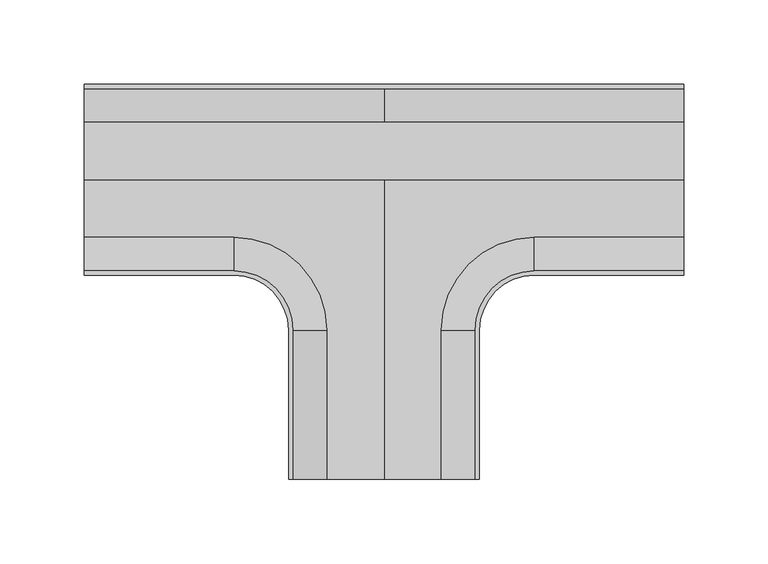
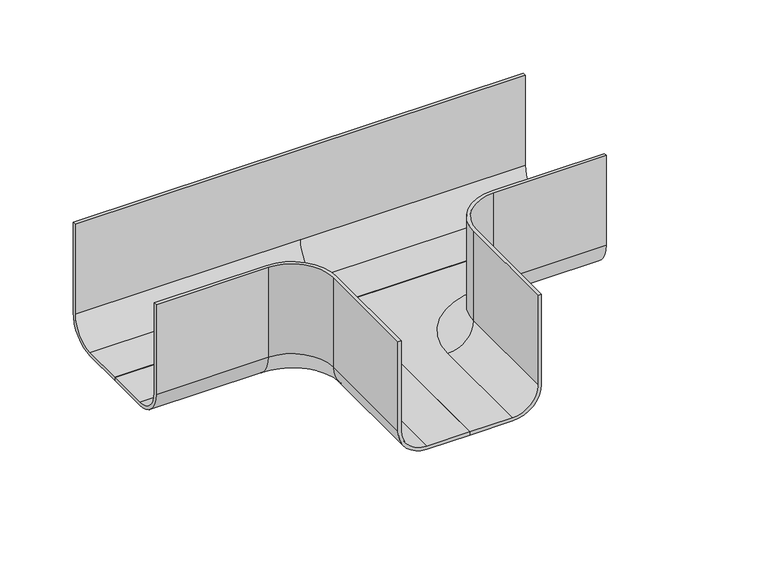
"""IFC4 building model written with IfcOpenShell, lengths in millimetres: cable carrier fitting geometry, ССT_Hyperline_FBTR-TEE Ответвитель Т-образный пластиковый : Ответвитель Т-образный пластиковый."""

import ifcopenshell
import ifcopenshell.guid

model = None  # the IFC model being written
_history = None  # IfcOwnerHistory: only IFC2X3 demands one
_inside = {}  # id of a spatial element -> (the spatial element, [elements in it])
_under = {}  # id of a project, library or spatial element -> (it, [spatial elements below it])
_declared = {}  # id of a project -> (the project, [libraries it declares])
_typed = {}  # id of a type object -> (the type object, [elements of that type])
_made_of = {}  # id of a material, layer set ... -> (it, [elements and type objects made of it])


def new_model(schema):
    """Start an empty IFC model of exactly this schema.

    Asked for "IFC4X3", IfcOpenShell would pick the latest addendum, in which some entities
    have other attributes; the version numbers below select the first issue.
    IFC2X3 requires an IfcOwnerHistory on every rooted entity: one is made here for all.
    """
    global model, _history
    if schema == "IFC4X3":
        model = ifcopenshell.file(schema_version=(4, 3, 0, 0))
    else:
        model = ifcopenshell.file(schema=schema)
    _inside.clear()
    _under.clear()
    _declared.clear()
    _typed.clear()
    _made_of.clear()
    _history = None
    if model.schema == "IFC2X3":
        org = make("IfcOrganization", Name="unknown")
        user = make(
            "IfcPersonAndOrganization",
            ThePerson=make("IfcPerson", FamilyName="unknown"),
            TheOrganization=org,
        )
        app = make(
            "IfcApplication",
            ApplicationDeveloper=org,
            Version="unknown",
            ApplicationFullName="unknown",
            ApplicationIdentifier="unknown",
        )
        _history = make(
            "IfcOwnerHistory",
            OwningUser=user,
            OwningApplication=app,
            ChangeAction="ADDED",
            CreationDate=0,
        )
    return model


def make(cls, **values):
    """One entity of the class cls with the attributes given. An attribute that is None is left unset."""
    return model.create_entity(
        cls, **{name: value for name, value in values.items() if value is not None}
    )


def rooted(cls, **values):
    """An entity with a GlobalId (a new one), such as an element, a storey or a relation."""
    return make(cls, GlobalId=ifcopenshell.guid.new(), OwnerHistory=_history, **values)


def si_unit(unit_type, name, prefix=None):
    """IfcSIUnit, for example si_unit("LENGTHUNIT", "METRE", prefix="MILLI")."""
    return make("IfcSIUnit", UnitType=unit_type, Prefix=prefix, Name=name)


def assignment(units):
    """IfcUnitAssignment: the units of a project."""
    return None if units is None else make("IfcUnitAssignment", Units=units)


def point(xyz):
    """IfcCartesianPoint."""
    return None if xyz is None else make("IfcCartesianPoint", Coordinates=xyz)


def direction(xyz):
    """IfcDirection."""
    return None if xyz is None else make("IfcDirection", DirectionRatios=xyz)


def frame(location, z_axis=None, x_axis=None):
    """IfcAxis2Placement3D, a coordinate frame: its origin and axes. An axis left out is left unset."""
    return make(
        "IfcAxis2Placement3D",
        Location=point(location),
        Axis=direction(z_axis),
        RefDirection=direction(x_axis),
    )


def origin():
    """The frame at (0, 0, 0) with its axes left unset."""
    return frame((0.0, 0.0, 0.0))


def place(relative_to, where):
    """IfcLocalPlacement: puts the frame where relative to a parent placement (None: the world)."""
    return make(
        "IfcLocalPlacement", PlacementRelTo=relative_to, RelativePlacement=where
    )


def context(
    kind, dimensions, precision=None, world=None, true_north=None, identifier=None
):
    """IfcGeometricRepresentationContext, for example the 3D "Model" context."""
    return make(
        "IfcGeometricRepresentationContext",
        ContextIdentifier=identifier,
        ContextType=kind,
        CoordinateSpaceDimension=dimensions,
        Precision=precision,
        WorldCoordinateSystem=world,
        TrueNorth=true_north,
    )


def project(units=None, contexts=None):
    """IfcProject with its units and contexts."""
    return rooted(
        "IfcProject",
        Name="project",
        RepresentationContexts=contexts,
        UnitsInContext=assignment(units),
    )


def spatial(cls, under=None, at=None, **own):
    """A site, building, storey or space (cls), placed at a placement, below another one or the project."""
    s = rooted(cls, ObjectPlacement=at, **own)
    if under is not None:
        _under.setdefault(under.id(), (under, []))[1].append(s)
    return s


def polyline(points):
    """IfcPolyline through the points."""
    return make("IfcPolyline", Points=[point(p) for p in points])


def circle_curve(where, radius):
    """IfcCircle in the frame where."""
    return make("IfcCircle", Position=where, Radius=radius)


def ellipse_curve(where, semi_axis1, semi_axis2):
    """IfcEllipse in the frame where."""
    return make(
        "IfcEllipse", Position=where, SemiAxis1=semi_axis1, SemiAxis2=semi_axis2
    )


def trimmed(basis, trim1, trim2, sense, master):
    """IfcTrimmedCurve: the piece of a basis curve between two trims."""
    return make(
        "IfcTrimmedCurve",
        BasisCurve=basis,
        Trim1=trim1,
        Trim2=trim2,
        SenseAgreement=sense,
        MasterRepresentation=master,
    )


def shape(context_of_items, identifier, shape_type, items):
    """IfcShapeRepresentation: the items that make up one representation, for example the "Body"."""
    return make(
        "IfcShapeRepresentation",
        ContextOfItems=context_of_items,
        RepresentationIdentifier=identifier,
        RepresentationType=shape_type,
        Items=items,
    )


def source(mapping_origin, context_of_items, identifier, shape_type, items):
    """IfcRepresentationMap: a shape defined once, which mapped items show again and again."""
    return make(
        "IfcRepresentationMap",
        MappingOrigin=mapping_origin,
        MappedRepresentation=shape(context_of_items, identifier, shape_type, items),
    )


def transform(
    local_origin,
    x_axis=None,
    y_axis=None,
    z_axis=None,
    scale=None,
    scale2=None,
    scale3=None,
    uniform=True,
):
    """IfcCartesianTransformationOperator3D, or its non-uniform kind. x_axis, y_axis, z_axis: its Axis1, 2, 3."""
    if uniform:
        return make(
            "IfcCartesianTransformationOperator3D",
            Axis1=direction(x_axis),
            Axis2=direction(y_axis),
            LocalOrigin=point(local_origin),
            Scale=scale,
            Axis3=direction(z_axis),
        )
    return make(
        "IfcCartesianTransformationOperator3DnonUniform",
        Axis1=direction(x_axis),
        Axis2=direction(y_axis),
        LocalOrigin=point(local_origin),
        Scale=scale,
        Axis3=direction(z_axis),
        Scale2=scale2,
        Scale3=scale3,
    )


def mapped(mapping_source, mapping_target):
    """IfcMappedItem: shows the shape of a source again, moved by a transform."""
    return make(
        "IfcMappedItem", MappingSource=mapping_source, MappingTarget=mapping_target
    )


def made_of(thing, what):
    """Note that an element or type object is made of a material, layer set ...; save() writes the relation."""
    if what is not None:
        _made_of.setdefault(what.id(), (what, []))[1].append(thing)
    return thing


def element(
    cls,
    number,
    at=None,
    inside=None,
    cuts=None,
    type_object=None,
    material=None,
    context=None,
    identifier="Body",
    shape_type=None,
    held_by="IfcProductDefinitionShape",
    body=None,
    shapes=None,
    **own,
):
    """One element of the class cls, such as IfcWall. Its Tag is "e" and its number.

    at: its placement. inside: the storey or other place that contains it. cuts: it is an
    opening in that element (IfcRelVoidsElement). A single representation is given by context,
    identifier, shape_type and body (its items); several are given by shapes. held_by: the class
    of the entity that holds the representations. save() writes the other relations.
    """
    e = rooted(cls, Tag="e%d" % number, ObjectPlacement=at, **own)
    if body is not None:
        shapes = [shape(context, identifier, shape_type, body)]
    if shapes is not None:
        e.Representation = make(held_by, Representations=shapes)
    if inside is not None:
        _inside.setdefault(inside.id(), (inside, []))[1].append(e)
    if cuts is not None:
        rooted(
            "IfcRelVoidsElement", RelatingBuildingElement=cuts, RelatedOpeningElement=e
        )
    if type_object is not None:
        _typed.setdefault(type_object.id(), (type_object, []))[1].append(e)
    return made_of(e, material)


def aggregate(whole, parts):
    """IfcRelAggregates: a whole, such as a stair, and the parts it consists of."""
    return rooted("IfcRelAggregates", RelatingObject=whole, RelatedObjects=parts)


def save(model, path):
    """Write the relations noted so far, then the file.

    IfcRelAggregates (storeys below a building ...), IfcRelContainedInSpatialStructure (elements
    in a storey), IfcRelDefinesByType, IfcRelAssociatesMaterial and IfcRelDeclares: one each for
    every whole, place, type object, material and project.
    """
    for whole, parts in _under.values():
        aggregate(whole, parts)
    for where, things in _inside.values():
        rooted(
            "IfcRelContainedInSpatialStructure",
            RelatedElements=things,
            RelatingStructure=where,
        )
    for kind, things in _typed.values():
        rooted("IfcRelDefinesByType", RelatedObjects=things, RelatingType=kind)
    for what, things in _made_of.values():
        rooted("IfcRelAssociatesMaterial", RelatedObjects=things, RelatingMaterial=what)
    for by, libraries in _declared.values():
        rooted("IfcRelDeclares", RelatingContext=by, RelatedDefinitions=libraries)
    model.write(path)


def plane_surface(at):
    """IfcPlane: the flat surface through the origin of the frame at, square to its z axis."""
    return make("IfcPlane", Position=at)


def cylinder_surface(at, radius):
    """IfcCylindricalSurface: all points at the distance radius from the z axis of the frame at."""
    return make("IfcCylindricalSurface", Position=at, Radius=radius)


def revolved_surface(curve, axis_point, axis_direction):
    """IfcSurfaceOfRevolution: the curve turned about the line through axis_point along axis_direction."""
    return make(
        "IfcSurfaceOfRevolution",
        SweptCurve=make("IfcArbitraryOpenProfileDef", ProfileType="CURVE", Curve=curve),
        AxisPosition=make("IfcAxis1Placement", Location=point(axis_point), Axis=direction(axis_direction)),
    )


def advanced_brep(points, edges, surfaces, faces):
    """IfcAdvancedBrep: a solid bounded by faces that lie on surfaces and meet in shared edges.

    An edge is (start, end): straight between two places in points (the first is 0);
    or (start, end, curve); or (start, end, curve, False) where it runs against its curve.
    A face is (place in surfaces, loops), or (place, loops, False) where it looks against
    its surface's normal. A loop lists edges by number (the first is 1), with a minus sign
    where the edge is run from its end to its start. The first loop is the outer one.
    """
    corners = [point(p) for p in points]
    vertices = [make("IfcVertexPoint", VertexGeometry=c) for c in corners]
    made = []
    for start, end, *more in edges:
        made.append(
            make(
                "IfcEdgeCurve",
                EdgeStart=vertices[start],
                EdgeEnd=vertices[end],
                EdgeGeometry=more[0] if more else make("IfcPolyline", Points=[corners[start], corners[end]]),
                SameSense=more[1] if len(more) > 1 else True,
            )
        )
    hull = []
    for where, loops, *sense in faces:
        bounds = []
        for j, loop in enumerate(loops):
            ring = [make("IfcOrientedEdge", EdgeElement=made[abs(k) - 1], Orientation=k > 0) for k in loop]
            bounds.append(
                make(
                    "IfcFaceOuterBound" if j == 0 else "IfcFaceBound",
                    Bound=make("IfcEdgeLoop", EdgeList=ring),
                    Orientation=True,
                )
            )
        hull.append(make("IfcAdvancedFace", Bounds=bounds, FaceSurface=surfaces[where], SameSense=sense[0] if sense else True))
    return make("IfcAdvancedBrep", Outer=make("IfcClosedShell", CfsFaces=hull))


def cable_carrier_fitting_8dd5b208(model_context):
    return source(origin(), model_context, "Body", "AdvancedBrep", [
        advanced_brep(
        [(-177.5, 56.54, -25.0), (-177.5, 34.0, -47.54), (-177.5, 0.0, -47.54), (-177.5, 0.0, -45.0), (-177.5, 34.0, -45.0), (-177.5, 54.0, -25.0), (-177.5, 54.0, 50.0), (-177.5, 56.54, 50.0), (0.0, 56.54, -25.0), (0.0, 34.0, -47.54), (177.5, 34.0, -47.54), (177.5, 0.0, -47.54), (177.5, 0.0, -45.0), (177.5, 34.0, -45.0), (0.0, 34.0, -45.0), (0.0, 54.0, -25.0), (177.5, 54.0, -25.0), (177.5, 54.0, 50.0), (177.5, 56.54, 50.0), (177.5, 56.54, -25.0)],
        [
            (0, 1, circle_curve(frame((-177.5, 34.0, -25.0), z_axis=(-1.0, 0.0, 0.0), x_axis=(0.0, 1.0, 0.0)), 22.54)),
            (1, 2),
            (2, 3),
            (3, 4),
            (4, 5, circle_curve(frame((-177.5, 34.0, -25.0), z_axis=(1.0, 0.0, 0.0), x_axis=(0.0, 1.0, 0.0)), 20.0)),
            (5, 6),
            (6, 7),
            (7, 0),
            (0, 8),
            (8, 9, circle_curve(frame((0.0, 34.0, -25.0), z_axis=(-1.0, 0.0, 0.0), x_axis=(0.0, 1.0, 0.0)), 22.54)),
            (9, 1),
            (9, 10),
            (10, 11),
            (11, 2),
            (11, 12),
            (12, 3),
            (12, 13),
            (13, 14),
            (14, 4),
            (14, 15, circle_curve(frame((0.0, 34.0, -25.0), z_axis=(1.0, 0.0, 0.0), x_axis=(0.0, 1.0, 0.0)), 20.0)),
            (15, 5),
            (15, 16),
            (16, 17),
            (17, 6),
            (7, 18),
            (18, 19),
            (19, 8),
            (18, 17),
            (16, 13, circle_curve(frame((177.5, 34.0, -25.0), z_axis=(-1.0, 0.0, 0.0), x_axis=(0.0, 1.0, 0.0)), 20.0)),
            (10, 19, circle_curve(frame((177.5, 34.0, -25.0), z_axis=(1.0, 0.0, 0.0), x_axis=(0.0, 1.0, 0.0)), 22.54)),
        ],
        [
            plane_surface(frame((-177.5, 54.0, 2.5), z_axis=(-1.0, 0.0, 0.0), x_axis=(0.0, 0.0, 1.0))),
            cylinder_surface(frame((-177.5, 34.0, -25.0), z_axis=(-1.0, 0.0, 0.0), x_axis=(0.0, 1.0, 0.0)), 22.54),
            plane_surface(frame((-177.5, 34.0, -47.54), z_axis=(0.0, 0.0, -1.0), x_axis=(1.0, 0.0, 0.0))),
            plane_surface(frame((-177.5, 0.0, -47.54), z_axis=(0.0, -1.0, 0.0), x_axis=(1.0, 0.0, 0.0))),
            plane_surface(frame((-177.5, 0.0, -45.0), z_axis=(0.0, 0.0, 1.0), x_axis=(1.0, 0.0, 0.0))),
            revolved_surface(polyline([(0.0, 54.0, -25.0), (-177.5, 54.0, -25.0)]), (-177.5, 34.0, -25.0), (1.0, 0.0, 0.0)),
            plane_surface(frame((-177.5, 54.0, -25.0), z_axis=(0.0, -1.0, 0.0), x_axis=(1.0, 0.0, 0.0))),
            plane_surface(frame((-177.5, 56.54, 50.0), z_axis=(0.0, 1.0, 0.0), x_axis=(1.0, 0.0, 0.0))),
            plane_surface(frame((177.5, 54.0, 2.5), z_axis=(1.0, 0.0, 0.0), x_axis=(0.0, 0.0, 1.0))),
            plane_surface(frame((-177.5, 54.0, 50.0), z_axis=(0.0, 0.0, 1.0), x_axis=(1.0, 0.0, 0.0))),
            cylinder_surface(frame((0.0, 34.0, -25.0), z_axis=(-1.0, 0.0, 0.0), x_axis=(0.0, 1.0, 0.0)), 22.54),
            revolved_surface(polyline([(177.5, 54.0, -25.0), (0.0, 54.0, -25.0)]), (0.0, 34.0, -25.0), (1.0, 0.0, 0.0)),
        ],
        [
            (0, [[1, 2, 3, 4, 5, 6, 7, 8]]),
            (1, [[-1, 9, 10, 11]]),
            (2, [[-2, -11, 12, 13, 14]]),
            (3, [[-3, -14, 15, 16]]),
            (4, [[-4, -16, 17, 18, 19]]),
            (5, [[-5, -19, 20, 21]]),
            (6, [[-6, -21, 22, 23, 24]]),
            (7, [[-8, 25, 26, 27, -9]]),
            (8, [[-26, 28, -23, 29, -17, -15, -13, 30]]),
            (9, [[-25, -7, -24, -28]]),
            (10, [[-10, -27, -30, -12]]),
            (11, [[-20, -18, -29, -22]]),
        ],
    ),
        advanced_brep(
        [(-177.5, -56.54, -25.0), (-177.5, -56.54, 50.0), (-177.5, -54.0, 50.0), (-177.5, -54.0, -25.0), (-177.5, -34.0, -45.0), (-177.5, 0.0, -45.0), (-177.5, 0.0, -47.54), (-177.5, -34.0, -47.54), (-89.0, -34.0, -47.54), (-89.0, -56.54, -25.0), (-89.0, -54.0, -25.0), (-89.0, -34.0, -45.0), (-89.0, -54.0, 50.0), (-89.0, -56.54, 50.0), (-56.54, -89.0, 50.0), (-56.54, -177.5, 50.0), (-54.0, -177.5, 50.0), (-54.0, -89.0, 50.0), (-34.0, -89.0, -47.54), (-56.54, -89.0, -25.0), (-54.0, -89.0, -25.0), (-34.0, -89.0, -45.0), (0.0, -177.5, -47.54), (0.0, -177.5, -45.0), (-34.0, -177.5, -45.0), (-54.0, -177.5, -25.0), (-56.54, -177.5, -25.0), (-34.0, -177.5, -47.54), (0.0, 0.0, -45.0), (0.0, 0.0, -47.54)],
        [
            (0, 1),
            (1, 2),
            (2, 3),
            (3, 4, circle_curve(frame((-177.5, -34.0, -25.0), z_axis=(1.0, 0.0, 0.0), x_axis=(0.0, -1.0, 0.0)), 20.0)),
            (4, 5),
            (5, 6),
            (6, 7),
            (7, 0, circle_curve(frame((-177.5, -34.0, -25.0), z_axis=(-1.0, 0.0, 0.0), x_axis=(0.0, -1.0, 0.0)), 22.54)),
            (7, 8),
            (8, 9, circle_curve(frame((-89.0, -34.0, -25.0), z_axis=(-1.0, 0.0, 0.0), x_axis=(0.0, -1.0, 0.0)), 22.54)),
            (9, 0),
            (3, 10),
            (10, 11, circle_curve(frame((-89.0, -34.0, -25.0), z_axis=(1.0, 0.0, 0.0), x_axis=(0.0, -1.0, 0.0)), 20.0)),
            (11, 4),
            (2, 12),
            (12, 10),
            (1, 13),
            (13, 14, circle_curve(frame((-89.0, -89.0, 50.0), z_axis=(0.0, 0.0, -1.0), x_axis=(0.0, 1.0, 0.0)), 32.46)),
            (14, 15),
            (15, 16),
            (16, 17),
            (17, 12, circle_curve(frame((-89.0, -89.0, 50.0), z_axis=(0.0, 0.0, 1.0), x_axis=(0.0, 1.0, 0.0)), 35.0)),
            (9, 13),
            (8, 18, circle_curve(frame((-89.0, -89.0, -47.54), z_axis=(0.0, 0.0, -1.0), x_axis=(0.0, 1.0, 0.0)), 55.0)),
            (18, 19, circle_curve(frame((-34.0, -89.0, -25.0), z_axis=(0.0, 1.0, 0.0), x_axis=(-1.0, 0.0, 0.0)), 22.54)),
            (19, 9, circle_curve(frame((-89.0, -89.0, -25.0), z_axis=(0.0, 0.0, 1.0), x_axis=(0.0, 1.0, 0.0)), 32.46)),
            (10, 20, circle_curve(frame((-89.0, -89.0, -25.0), z_axis=(0.0, 0.0, -1.0), x_axis=(0.0, 1.0, 0.0)), 35.0)),
            (20, 21, circle_curve(frame((-34.0, -89.0, -25.0), z_axis=(0.0, -1.0, 0.0), x_axis=(-1.0, 0.0, 0.0)), 20.0)),
            (21, 11, circle_curve(frame((-89.0, -89.0, -45.0), z_axis=(0.0, 0.0, 1.0), x_axis=(0.0, 1.0, 0.0)), 55.0)),
            (17, 20),
            (19, 14),
            (22, 23),
            (23, 24),
            (24, 25, circle_curve(frame((-34.0, -177.5, -25.0), z_axis=(0.0, 1.0, 0.0), x_axis=(-1.0, 0.0, 0.0)), 20.0)),
            (25, 16),
            (15, 26),
            (26, 27, circle_curve(frame((-34.0, -177.5, -25.0), z_axis=(0.0, -1.0, 0.0), x_axis=(-1.0, 0.0, 0.0)), 22.54)),
            (27, 22),
            (26, 19),
            (18, 27),
            (20, 25),
            (24, 21),
            (23, 28),
            (28, 5),
            (6, 29),
            (29, 22),
            (28, 29),
        ],
        [
            plane_surface(frame((-177.5, -54.0, 0.0), z_axis=(-1.0, 0.0, 0.0), x_axis=(0.0, 0.0, 1.0))),
            cylinder_surface(frame((-177.5, -34.0, -25.0), z_axis=(-1.0, 0.0, 0.0), x_axis=(0.0, -1.0, 0.0)), 22.54),
            revolved_surface(polyline([(-89.0, -54.0, -25.0), (-177.5, -54.0, -25.0)]), (-177.5, -34.0, -25.0), (1.0, 0.0, 0.0)),
            plane_surface(frame((-177.5, -54.0, -25.0), z_axis=(0.0, 1.0, 0.0), x_axis=(1.0, 0.0, 0.0))),
            plane_surface(frame((-177.5, -54.0, 50.0), z_axis=(0.0, 0.0, 1.0), x_axis=(1.0, 0.0, 0.0))),
            plane_surface(frame((-177.5, -56.54, 50.0), z_axis=(0.0, -1.0, 0.0), x_axis=(1.0, 0.0, 0.0))),
            revolved_surface(trimmed(ellipse_curve(frame((-89.0, -34.0, -25.0), z_axis=(1.0, 0.0, 0.0), x_axis=(0.0, -1.0, 0.0)), 22.54, 22.54), [point((-89.0, -56.54, -25.0))], [point((-89.0, -34.0, -47.54))], True, "CARTESIAN"), (-89.0, -89.0, 0.0), (0.0, 0.0, 1.0)),
            revolved_surface(trimmed(ellipse_curve(frame((-89.0, -34.0, -25.0), z_axis=(-1.0, 0.0, 0.0), x_axis=(0.0, -1.0, 0.0)), 20.0, 20.0), [point((-89.0, -34.0, -45.0))], [point((-89.0, -54.0, -25.0))], True, "CARTESIAN"), (-89.0, -89.0, 0.0), (0.0, 0.0, 1.0)),
            cylinder_surface(frame((-89.0, -89.0, 0.0), z_axis=(0.0, 0.0, 1.0), x_axis=(0.0, 1.0, 0.0)), 35.0),
            revolved_surface(polyline([(-89.0, -56.54, 50.0), (-89.0, -56.54, -25.0)]), (-89.0, -89.0, 0.0), (0.0, 0.0, 1.0)),
            plane_surface(frame((-54.0, -177.5, 0.0), z_axis=(0.0, -1.0, 0.0), x_axis=(0.0, 0.0, 1.0))),
            cylinder_surface(frame((-34.0, -89.0, -25.0), z_axis=(0.0, 1.0, 0.0), x_axis=(-1.0, 0.0, 0.0)), 22.54),
            revolved_surface(polyline([(-54.0, -177.5, -25.0), (-54.0, -89.0, -25.0)]), (-34.0, -89.0, -25.0), (0.0, -1.0, 0.0)),
            plane_surface(frame((-54.0, -89.0, -25.0), z_axis=(1.0, 0.0, 0.0), x_axis=(0.0, -1.0, 0.0))),
            plane_surface(frame((-56.54, -89.0, 50.0), z_axis=(-1.0, 0.0, 0.0), x_axis=(0.0, -1.0, 0.0))),
            plane_surface(frame((0.0, -89.0, -45.0), z_axis=(0.0, 0.0, 1.0), x_axis=(0.0, 1.0, 0.0))),
            plane_surface(frame((0.0, -89.0, -47.54), z_axis=(0.0, 0.0, -1.0), x_axis=(0.0, -1.0, 0.0))),
            plane_surface(frame((-89.0, 0.0, -45.0), z_axis=(0.0, 1.0, 0.0), x_axis=(0.0, 0.0, -1.0))),
            plane_surface(frame((0.0, 0.0, -45.0), z_axis=(1.0, 0.0, 0.0), x_axis=(0.0, 0.0, -1.0))),
        ],
        [
            (0, [[1, 2, 3, 4, 5, 6, 7, 8]]),
            (1, [[9, 10, 11, -8]]),
            (2, [[12, 13, 14, -4]]),
            (3, [[15, 16, -12, -3]]),
            (4, [[17, 18, 19, 20, 21, 22, -15, -2]]),
            (5, [[-11, 23, -17, -1]]),
            (6, [[24, 25, 26, -10]]),
            (7, [[-13, 27, 28, 29]]),
            (8, [[-22, 30, -27, -16]]),
            (9, [[-23, -26, 31, -18]]),
            (10, [[32, 33, 34, 35, -20, 36, 37, 38]]),
            (11, [[-37, 39, -25, 40]]),
            (12, [[-28, 41, -34, 42]]),
            (13, [[-35, -41, -30, -21]]),
            (14, [[-31, -39, -36, -19]]),
            (15, [[43, 44, -5, -14, -29, -42, -33]]),
            (16, [[45, 46, -38, -40, -24, -9, -7]]),
            (17, [[47, -45, -6, -44]]),
            (18, [[-32, -46, -47, -43]]),
        ],
    ),
        advanced_brep(
        [(177.5, -56.54, -25.0), (177.5, -34.0, -47.54), (177.5, 0.0, -47.54), (177.5, 0.0, -45.0), (177.5, -34.0, -45.0), (177.5, -54.0, -25.0), (177.5, -54.0, 50.0), (177.5, -56.54, 50.0), (89.0, -56.54, -25.0), (89.0, -34.0, -47.54), (89.0, -34.0, -45.0), (89.0, -54.0, -25.0), (89.0, -54.0, 50.0), (54.0, -89.0, 50.0), (54.0, -177.5, 50.0), (56.54, -177.5, 50.0), (56.54, -89.0, 50.0), (89.0, -56.54, 50.0), (56.54, -89.0, -25.0), (34.0, -89.0, -47.54), (34.0, -89.0, -45.0), (54.0, -89.0, -25.0), (0.0, -177.5, -47.54), (34.0, -177.5, -47.54), (56.54, -177.5, -25.0), (54.0, -177.5, -25.0), (34.0, -177.5, -45.0), (0.0, -177.5, -45.0), (0.0, 0.0, -45.0), (0.0, 0.0, -47.54)],
        [
            (0, 1, circle_curve(frame((177.5, -34.0, -25.0), z_axis=(1.0, 0.0, 0.0), x_axis=(0.0, -1.0, 0.0)), 22.54)),
            (1, 2),
            (2, 3),
            (3, 4),
            (4, 5, circle_curve(frame((177.5, -34.0, -25.0), z_axis=(-1.0, 0.0, 0.0), x_axis=(0.0, -1.0, 0.0)), 20.0)),
            (5, 6),
            (6, 7),
            (7, 0),
            (0, 8),
            (8, 9, circle_curve(frame((89.0, -34.0, -25.0), z_axis=(1.0, 0.0, 0.0), x_axis=(0.0, -1.0, 0.0)), 22.54)),
            (9, 1),
            (4, 10),
            (10, 11, circle_curve(frame((89.0, -34.0, -25.0), z_axis=(-1.0, 0.0, 0.0), x_axis=(0.0, -1.0, 0.0)), 20.0)),
            (11, 5),
            (11, 12),
            (12, 6),
            (12, 13, circle_curve(frame((89.0, -89.0, 50.0), z_axis=(0.0, 0.0, 1.0), x_axis=(0.0, 1.0, 0.0)), 35.0)),
            (13, 14),
            (14, 15),
            (15, 16),
            (16, 17, circle_curve(frame((89.0, -89.0, 50.0), z_axis=(0.0, 0.0, -1.0), x_axis=(0.0, 1.0, 0.0)), 32.46)),
            (17, 7),
            (17, 8),
            (8, 18, circle_curve(frame((89.0, -89.0, -25.0), z_axis=(0.0, 0.0, 1.0), x_axis=(0.0, 1.0, 0.0)), 32.46)),
            (18, 19, circle_curve(frame((34.0, -89.0, -25.0), z_axis=(0.0, 1.0, 0.0), x_axis=(1.0, 0.0, 0.0)), 22.54)),
            (19, 9, circle_curve(frame((89.0, -89.0, -47.54), z_axis=(0.0, 0.0, -1.0), x_axis=(0.0, 1.0, 0.0)), 55.0)),
            (10, 20, circle_curve(frame((89.0, -89.0, -45.0), z_axis=(0.0, 0.0, 1.0), x_axis=(0.0, 1.0, 0.0)), 55.0)),
            (20, 21, circle_curve(frame((34.0, -89.0, -25.0), z_axis=(0.0, -1.0, 0.0), x_axis=(1.0, 0.0, 0.0)), 20.0)),
            (21, 11, circle_curve(frame((89.0, -89.0, -25.0), z_axis=(0.0, 0.0, -1.0), x_axis=(0.0, 1.0, 0.0)), 35.0)),
            (21, 13),
            (16, 18),
            (22, 23),
            (23, 24, circle_curve(frame((34.0, -177.5, -25.0), z_axis=(0.0, -1.0, 0.0), x_axis=(1.0, 0.0, 0.0)), 22.54)),
            (24, 15),
            (14, 25),
            (25, 26, circle_curve(frame((34.0, -177.5, -25.0), z_axis=(0.0, 1.0, 0.0), x_axis=(1.0, 0.0, 0.0)), 20.0)),
            (26, 27),
            (27, 22),
            (23, 19),
            (18, 24),
            (20, 26),
            (25, 21),
            (3, 28),
            (28, 27),
            (22, 29),
            (29, 2),
            (29, 28),
        ],
        [
            plane_surface(frame((177.5, -54.0, 0.0), z_axis=(1.0, 0.0, 0.0), x_axis=(0.0, 0.0, 1.0))),
            cylinder_surface(frame((177.5, -34.0, -25.0), z_axis=(1.0, 0.0, 0.0), x_axis=(0.0, -1.0, 0.0)), 22.54),
            revolved_surface(polyline([(89.0, -54.0, -25.0), (177.5, -54.0, -25.0)]), (177.5, -34.0, -25.0), (-1.0, 0.0, 0.0)),
            plane_surface(frame((177.5, -54.0, -25.0), z_axis=(0.0, 1.0, 0.0), x_axis=(-1.0, 0.0, 0.0))),
            plane_surface(frame((177.5, -54.0, 50.0), z_axis=(0.0, 0.0, 1.0), x_axis=(-1.0, 0.0, 0.0))),
            plane_surface(frame((177.5, -56.54, 50.0), z_axis=(0.0, -1.0, 0.0), x_axis=(-1.0, 0.0, 0.0))),
            revolved_surface(trimmed(ellipse_curve(frame((89.0, -34.0, -25.0), z_axis=(1.0, 0.0, 0.0), x_axis=(0.0, -1.0, 0.0)), 22.54, 22.54), [point((89.0, -56.54, -25.0))], [point((89.0, -34.0, -47.54))], True, "CARTESIAN"), (89.0, -89.0, 0.0), (0.0, 0.0, 1.0)),
            revolved_surface(trimmed(ellipse_curve(frame((89.0, -34.0, -25.0), z_axis=(-1.0, 0.0, 0.0), x_axis=(0.0, -1.0, 0.0)), 20.0, 20.0), [point((89.0, -34.0, -45.0))], [point((89.0, -54.0, -25.0))], True, "CARTESIAN"), (89.0, -89.0, 0.0), (0.0, 0.0, 1.0)),
            cylinder_surface(frame((89.0, -89.0, 0.0), z_axis=(0.0, 0.0, 1.0), x_axis=(0.0, 1.0, 0.0)), 35.0),
            revolved_surface(polyline([(89.0, -56.54, 50.0), (89.0, -56.54, -25.0)]), (89.0, -89.0, 0.0), (0.0, 0.0, 1.0)),
            plane_surface(frame((54.0, -177.5, 0.0), z_axis=(0.0, -1.0, 0.0), x_axis=(0.0, 0.0, 1.0))),
            cylinder_surface(frame((34.0, -89.0, -25.0), z_axis=(0.0, 1.0, 0.0), x_axis=(1.0, 0.0, 0.0)), 22.54),
            revolved_surface(polyline([(54.0, -177.5, -25.0), (54.0, -89.0, -25.0)]), (34.0, -89.0, -25.0), (0.0, -1.0, 0.0)),
            plane_surface(frame((54.0, -89.0, -25.0), z_axis=(-1.0, 0.0, 0.0), x_axis=(0.0, -1.0, 0.0))),
            plane_surface(frame((56.54, -89.0, 50.0), z_axis=(1.0, 0.0, 0.0), x_axis=(0.0, -1.0, 0.0))),
            plane_surface(frame((0.0, -89.0, -45.0), z_axis=(0.0, 0.0, 1.0), x_axis=(0.0, 1.0, 0.0))),
            plane_surface(frame((0.0, -89.0, -47.54), z_axis=(0.0, 0.0, -1.0), x_axis=(0.0, -1.0, 0.0))),
            plane_surface(frame((89.0, 0.0, -45.0), z_axis=(0.0, 1.0, 0.0), x_axis=(0.0, 0.0, -1.0))),
            plane_surface(frame((0.0, 0.0, -45.0), z_axis=(-1.0, 0.0, 0.0), x_axis=(0.0, 0.0, -1.0))),
        ],
        [
            (0, [[1, 2, 3, 4, 5, 6, 7, 8]]),
            (1, [[-1, 9, 10, 11]]),
            (2, [[-5, 12, 13, 14]]),
            (3, [[-6, -14, 15, 16]]),
            (4, [[-7, -16, 17, 18, 19, 20, 21, 22]]),
            (5, [[-8, -22, 23, -9]]),
            (6, [[-10, 24, 25, 26]]),
            (7, [[27, 28, 29, -13]]),
            (8, [[-15, -29, 30, -17]]),
            (9, [[-21, 31, -24, -23]]),
            (10, [[32, 33, 34, -19, 35, 36, 37, 38]]),
            (11, [[39, -25, 40, -33]]),
            (12, [[41, -36, 42, -28]]),
            (13, [[-18, -30, -42, -35]]),
            (14, [[-20, -34, -40, -31]]),
            (15, [[-37, -41, -27, -12, -4, 43, 44]]),
            (16, [[-2, -11, -26, -39, -32, 45, 46]]),
            (17, [[-43, -3, -46, 47]]),
            (18, [[-44, -47, -45, -38]]),
        ],
    ),
    ])


if __name__ == "__main__":
    model = new_model("IFC4")
    model_context = context("Model", 3, world=origin())
    ifc_project = project(units=[si_unit("LENGTHUNIT", "METRE", prefix="MILLI")], contexts=[model_context])
    site = spatial("IfcSite", under=ifc_project)
    building = spatial("IfcBuilding", under=site)
    placement = place(None, origin())
    cable_carrier_fitting_shape = cable_carrier_fitting_8dd5b208(model_context)
    element("IfcCableCarrierFitting", 1, ObjectType="ССT_Hyperline_FBTR-TEE Ответвитель Т-образный пластиковый : Ответвитель Т-образный пластиковый", at=placement, inside=building, context=model_context, shape_type="MappedRepresentation", body=[
        mapped(cable_carrier_fitting_shape, transform((0.0, 0.0, 0.0), x_axis=(1.0, 0.0, 0.0), y_axis=(0.0, 1.0, 0.0), z_axis=(0.0, 0.0, 1.0))),
    ])
    save(model, "model.ifc")
